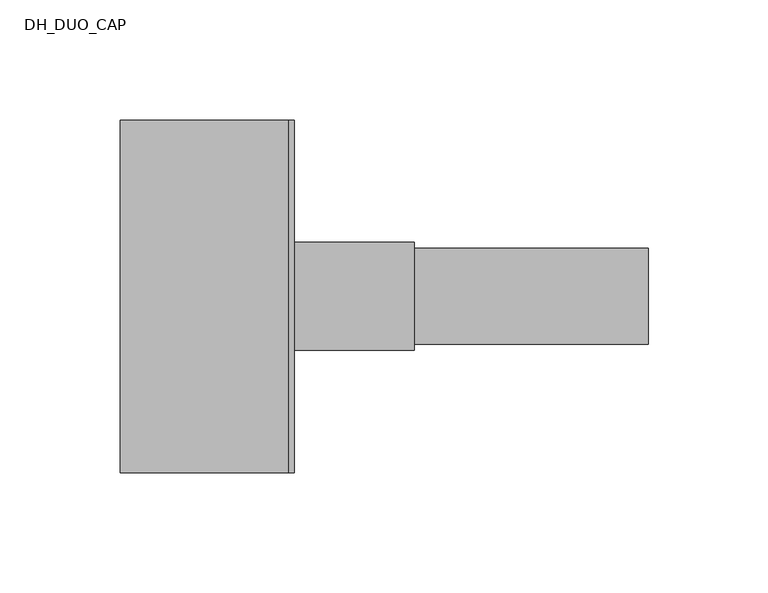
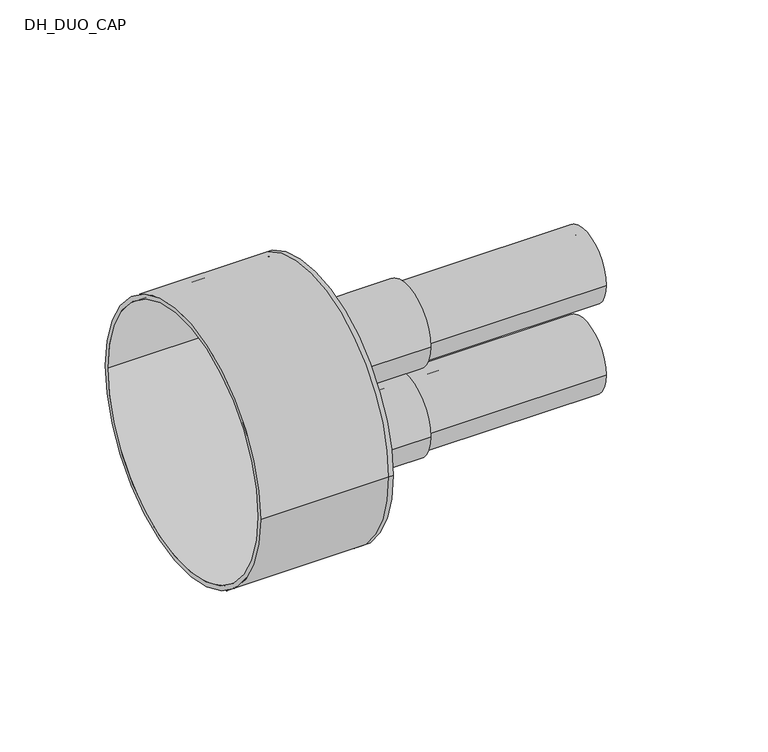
"""IFC4 building model written with IfcOpenShell, lengths in millimetres: pipe fitting geometry, DH_DUO_CAP : RAUTHERMEX DUO + 7.4 Heating - Rubber Cap."""

from ifc_helpers import new_model, si_unit, point, frame, frame_2d, origin, place, context, project, spatial, polyline, circle_curve, trimmed, segment, composite_curve, outline, extrude, source, transform, mapped, element, save
from ifc_brep_helpers import plane_surface, cylinder_surface, revolved_surface, advanced_brep


def dh_duo_cap_2d3aefab(model_context):
    return source(origin(), model_context, "Body", "SolidModel", [
        extrude(outline(composite_curve([segment(trimmed(circle_curve(frame_2d((0.0, -26.0)), 20.0), [point((-20.0, -26.0))], [point((20.0, -26.0))], False, "CARTESIAN"), True, "CONTINUOUS"), segment(trimmed(circle_curve(frame_2d((0.0, -26.0)), 20.0), [point((20.0, -26.0))], [point((-20.0, -26.0))], False, "CARTESIAN"), True, "CONTINUOUS")], self_intersect=False), holes=[composite_curve([segment(trimmed(circle_curve(frame_2d((0.0, -26.0)), 14.5), [point((-14.5, -26.0))], [point((14.5, -26.0))], True, "CARTESIAN"), True, "CONTINUOUS"), segment(trimmed(circle_curve(frame_2d((0.0, -26.0)), 14.5), [point((14.5, -26.0))], [point((-14.5, -26.0))], True, "CARTESIAN"), True, "CONTINUOUS")], self_intersect=False)]), frame((0.0, 0.0, 0.0), z_axis=(1.0, 0.0, 0.0), x_axis=(0.0, 1.0, 0.0)), (0.0, 0.0, 1.0), 150.0),
        extrude(outline(composite_curve([segment(trimmed(circle_curve(frame_2d((0.0, 26.0)), 20.0), [point((-20.0, 26.0))], [point((20.0, 26.0))], False, "CARTESIAN"), True, "CONTINUOUS"), segment(trimmed(circle_curve(frame_2d((0.0, 26.0)), 20.0), [point((20.0, 26.0))], [point((-20.0, 26.0))], False, "CARTESIAN"), True, "CONTINUOUS")], self_intersect=False), holes=[composite_curve([segment(trimmed(circle_curve(frame_2d((0.0, 26.0)), 14.5), [point((-14.5, 26.0))], [point((14.5, 26.0))], True, "CARTESIAN"), True, "CONTINUOUS"), segment(trimmed(circle_curve(frame_2d((0.0, 26.0)), 14.5), [point((14.5, 26.0))], [point((-14.5, 26.0))], True, "CARTESIAN"), True, "CONTINUOUS")], self_intersect=False)]), frame((0.0, 0.0, 0.0), z_axis=(1.0, 0.0, 0.0), x_axis=(0.0, 1.0, 0.0)), (0.0, 0.0, 1.0), 150.0),
        advanced_brep(
        [(-70.0, -73.5, 0.0), (-70.0, 73.5, 0.0), (-70.0, -71.0, 0.0), (-70.0, 71.0, 0.0), (0.0, -71.0, 0.0), (0.0, 71.0, 0.0), (0.0, -73.5, 0.0), (0.0, 73.5, 0.0), (0.0, 20.0, 26.0), (0.0, -20.0, 26.0), (0.0, 20.0, -26.0), (0.0, -20.0, -26.0), (2.5, -73.5, 0.0), (2.5, 73.5, 0.0), (2.5, -20.0, 26.0), (2.5, 20.0, 26.0), (2.5, -20.0, -26.0), (2.5, 20.0, -26.0)],
        [
            (0, 1, circle_curve(frame((-70.0, 0.0, 0.0), z_axis=(-1.0, 0.0, 0.0), x_axis=(0.0, 1.0, 0.0)), 73.5)),
            (1, 0, circle_curve(frame((-70.0, 0.0, 0.0), z_axis=(-1.0, 0.0, 0.0), x_axis=(0.0, 1.0, 0.0)), 73.5)),
            (2, 3, circle_curve(frame((-70.0, 0.0, 0.0), z_axis=(1.0, 0.0, 0.0), x_axis=(0.0, 1.0, 0.0)), 71.0)),
            (3, 2, circle_curve(frame((-70.0, 0.0, 0.0), z_axis=(1.0, 0.0, 0.0), x_axis=(0.0, 1.0, 0.0)), 71.0)),
            (2, 4),
            (4, 5, circle_curve(frame((0.0, 0.0, 0.0), z_axis=(1.0, 0.0, 0.0), x_axis=(0.0, 1.0, 0.0)), 71.0)),
            (5, 3),
            (5, 4, circle_curve(frame((0.0, 0.0, 0.0), z_axis=(1.0, 0.0, 0.0), x_axis=(0.0, 1.0, 0.0)), 71.0)),
            (0, 6),
            (6, 7, circle_curve(frame((0.0, 0.0, 0.0), z_axis=(-1.0, 0.0, 0.0), x_axis=(0.0, 1.0, 0.0)), 73.5)),
            (7, 1),
            (7, 6, circle_curve(frame((0.0, 0.0, 0.0), z_axis=(-1.0, 0.0, 0.0), x_axis=(0.0, 1.0, 0.0)), 73.5)),
            (8, 9, circle_curve(frame((0.0, 0.0, 26.0), z_axis=(1.0, 0.0, 0.0), x_axis=(0.0, 1.0, 0.0)), 20.0)),
            (9, 8, circle_curve(frame((0.0, 0.0, 26.0), z_axis=(1.0, 0.0, 0.0), x_axis=(0.0, 1.0, 0.0)), 20.0)),
            (10, 11, circle_curve(frame((0.0, 0.0, -26.0), z_axis=(1.0, 0.0, 0.0), x_axis=(0.0, 1.0, 0.0)), 20.0)),
            (11, 10, circle_curve(frame((0.0, 0.0, -26.0), z_axis=(1.0, 0.0, 0.0), x_axis=(0.0, 1.0, 0.0)), 20.0)),
            (12, 13, circle_curve(frame((2.5, 0.0, 0.0), z_axis=(1.0, 0.0, 0.0), x_axis=(0.0, 1.0, 0.0)), 73.5)),
            (13, 12, circle_curve(frame((2.5, 0.0, 0.0), z_axis=(1.0, 0.0, 0.0), x_axis=(0.0, 1.0, 0.0)), 73.5)),
            (14, 15, circle_curve(frame((2.5, 0.0, 26.0), z_axis=(-1.0, 0.0, 0.0), x_axis=(0.0, 1.0, 0.0)), 20.0)),
            (15, 14, circle_curve(frame((2.5, 0.0, 26.0), z_axis=(-1.0, 0.0, 0.0), x_axis=(0.0, 1.0, 0.0)), 20.0)),
            (16, 17, circle_curve(frame((2.5, 0.0, -26.0), z_axis=(-1.0, 0.0, 0.0), x_axis=(0.0, 1.0, 0.0)), 20.0)),
            (17, 16, circle_curve(frame((2.5, 0.0, -26.0), z_axis=(-1.0, 0.0, 0.0), x_axis=(0.0, 1.0, 0.0)), 20.0)),
            (13, 7),
            (6, 12),
            (8, 15),
            (14, 9),
            (10, 17),
            (16, 11),
        ],
        [
            plane_surface(frame((-70.0, 0.0, 0.0), z_axis=(-1.0, 0.0, 0.0), x_axis=(0.0, 0.0, 1.0))),
            revolved_surface(polyline([(0.0, 71.0, 0.0), (-70.0, 71.0, 0.0)]), (-70.0, 0.0, 0.0), (1.0, 0.0, 0.0)),
            cylinder_surface(frame((-70.0, 0.0, 0.0), z_axis=(-1.0, 0.0, 0.0), x_axis=(0.0, 1.0, 0.0)), 73.5),
            plane_surface(frame((0.0, 0.0, 0.0), z_axis=(-1.0, 0.0, 0.0), x_axis=(0.0, 0.0, 1.0))),
            plane_surface(frame((2.5, 0.0, 0.0), z_axis=(1.0, 0.0, 0.0), x_axis=(0.0, 0.0, 1.0))),
            cylinder_surface(frame((0.0, 0.0, 0.0), z_axis=(-1.0, 0.0, 0.0), x_axis=(0.0, 1.0, 0.0)), 73.5),
            revolved_surface(polyline([(0.0, 20.0, 26.0), (2.5, 20.0, 26.0)]), (0.0, 0.0, 26.0), (-1.0, 0.0, 0.0)),
            revolved_surface(polyline([(0.0, 20.0, -26.0), (2.5, 20.0, -26.0)]), (0.0, 0.0, -26.0), (-1.0, 0.0, 0.0)),
        ],
        [
            (0, [[1, 2], [3, 4]]),
            (1, [[-3, 5, 6, 7]]),
            (1, [[-4, -7, 8, -5]]),
            (2, [[-1, 9, 10, 11]]),
            (2, [[-2, -11, 12, -9]]),
            (3, [[-6, -8], [13, 14], [15, 16]]),
            (4, [[17, 18], [19, 20], [21, 22]]),
            (5, [[-18, 23, -10, 24]]),
            (5, [[-17, -24, -12, -23]]),
            (6, [[25, -19, 26, -13]]),
            (6, [[-25, -14, -26, -20]]),
            (7, [[27, -21, 28, -15]]),
            (7, [[-27, -16, -28, -22]]),
        ],
    ),
        extrude(outline(composite_curve([segment(trimmed(circle_curve(frame_2d((0.0, -26.0)), 22.5), [point((-22.5, -26.0))], [point((22.5, -26.0))], False, "CARTESIAN"), True, "CONTINUOUS"), segment(trimmed(circle_curve(frame_2d((0.0, -26.0)), 22.5), [point((22.5, -26.0))], [point((-22.5, -26.0))], False, "CARTESIAN"), True, "CONTINUOUS")], self_intersect=False), holes=[composite_curve([segment(trimmed(circle_curve(frame_2d((0.0, -26.0)), 20.0), [point((-20.0, -26.0))], [point((20.0, -26.0))], True, "CARTESIAN"), True, "CONTINUOUS"), segment(trimmed(circle_curve(frame_2d((0.0, -26.0)), 20.0), [point((20.0, -26.0))], [point((-20.0, -26.0))], True, "CARTESIAN"), True, "CONTINUOUS")], self_intersect=False)]), frame((2.5, 0.0, 0.0), z_axis=(1.0, 0.0, 0.0), x_axis=(0.0, 1.0, 0.0)), (0.0, 0.0, 1.0), 50.0),
        extrude(outline(composite_curve([segment(trimmed(circle_curve(frame_2d((0.0, 26.0)), 22.5), [point((-22.5, 26.0))], [point((22.5, 26.0))], False, "CARTESIAN"), True, "CONTINUOUS"), segment(trimmed(circle_curve(frame_2d((0.0, 26.0)), 22.5), [point((22.5, 26.0))], [point((-22.5, 26.0))], False, "CARTESIAN"), True, "CONTINUOUS")], self_intersect=False), holes=[composite_curve([segment(trimmed(circle_curve(frame_2d((0.0, 26.0)), 20.0), [point((-20.0, 26.0))], [point((20.0, 26.0))], True, "CARTESIAN"), True, "CONTINUOUS"), segment(trimmed(circle_curve(frame_2d((0.0, 26.0)), 20.0), [point((20.0, 26.0))], [point((-20.0, 26.0))], True, "CARTESIAN"), True, "CONTINUOUS")], self_intersect=False)]), frame((2.5, 0.0, 0.0), z_axis=(1.0, 0.0, 0.0), x_axis=(0.0, 1.0, 0.0)), (0.0, 0.0, 1.0), 50.0),
    ])


if __name__ == "__main__":
    model = new_model("IFC4")
    model_context = context("Model", 3, world=origin())
    ifc_project = project(units=[si_unit("LENGTHUNIT", "METRE", prefix="MILLI")], contexts=[model_context])
    site = spatial("IfcSite", under=ifc_project)
    building = spatial("IfcBuilding", under=site)
    placement = place(None, origin())
    dh_duo_cap_shape = dh_duo_cap_2d3aefab(model_context)
    element("IfcPipeFitting", 1, ObjectType="DH_DUO_CAP : RAUTHERMEX DUO + 7.4 Heating - Rubber Cap", at=placement, inside=building, context=model_context, shape_type="MappedRepresentation", body=[
        mapped(dh_duo_cap_shape, transform((0.0, 0.0, 0.0), x_axis=(1.0, 0.0, 0.0), y_axis=(0.0, 1.0, 0.0), z_axis=(0.0, 0.0, 1.0))),
    ])
    save(model, "model.ifc")
